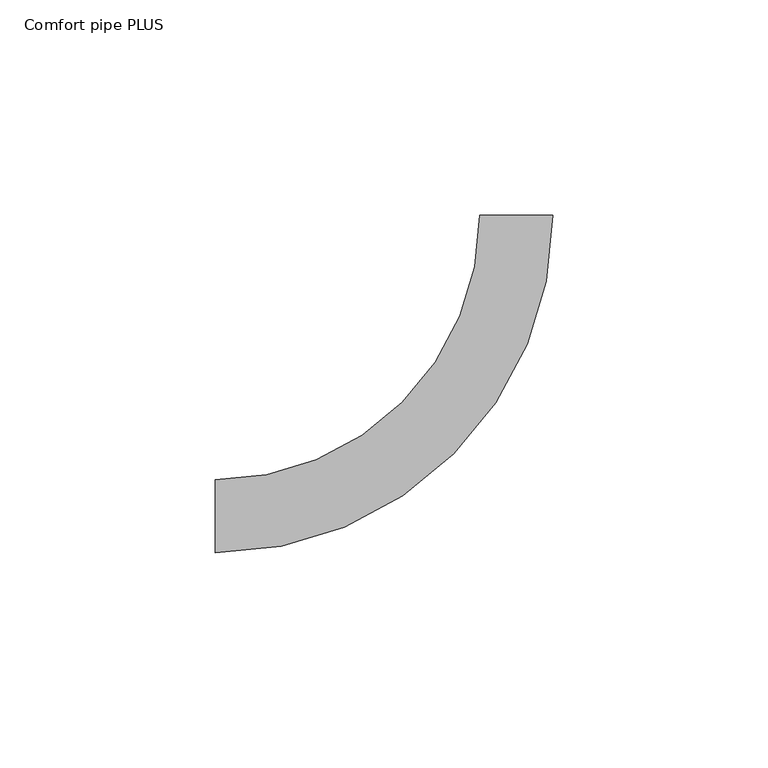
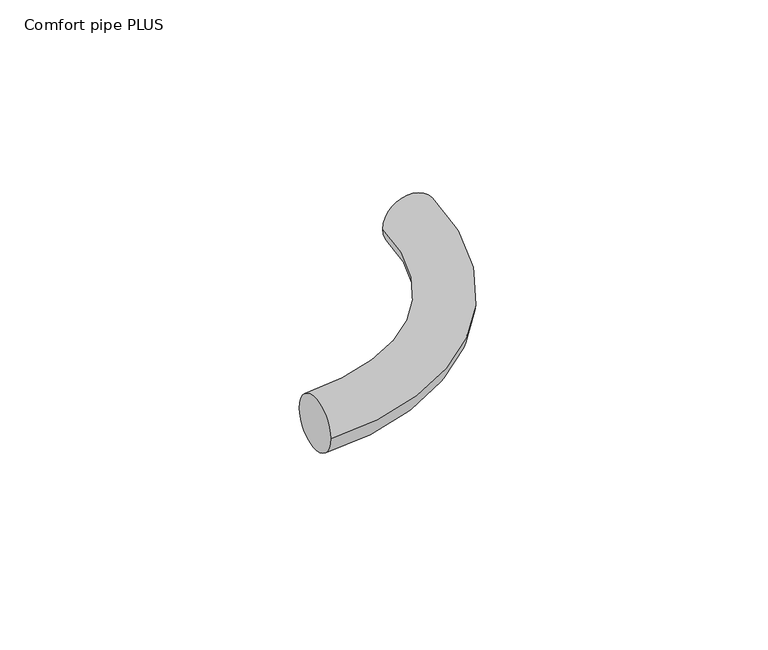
"""IFC4 building model written with IfcOpenShell, lengths in millimetres: pipe fitting geometry, 400_5-_Uponor_curved_Elbow : Comfort pipe PLUS."""

from ifc_helpers import new_model, si_unit, point, frame, origin, place, context, project, spatial, circle_curve, ellipse_curve, trimmed, source, transform, mapped, element, save
from ifc_brep_helpers import plane_surface, revolved_surface, advanced_brep


def comfort_pipe_plus_d9ac523e(model_context):
    return source(origin(), model_context, "Body", "AdvancedBrep", [
        advanced_brep(
        [(-70.0, -8.5, 0.0), (-70.0, 8.5, 0.0), (8.5, 70.0, 0.0), (-8.5, 70.0, 0.0)],
        [
            (0, 1, circle_curve(frame((-70.0, 0.0, 0.0), z_axis=(-1.0, 0.0, 0.0), x_axis=(0.0, 1.0, 0.0)), 8.5)),
            (1, 0, circle_curve(frame((-70.0, 0.0, 0.0), z_axis=(-1.0, 0.0, 0.0), x_axis=(0.0, 1.0, 0.0)), 8.5)),
            (2, 3, circle_curve(frame((0.0, 70.0, 0.0), z_axis=(0.0, 1.0, 0.0), x_axis=(-1.0, 0.0, 0.0)), 8.5)),
            (3, 2, circle_curve(frame((0.0, 70.0, 0.0), z_axis=(0.0, 1.0, 0.0), x_axis=(-1.0, 0.0, 0.0)), 8.5)),
            (3, 1, circle_curve(frame((-70.0, 70.0, 0.0), z_axis=(0.0, 0.0, -1.0), x_axis=(0.0, -1.0, 0.0)), 61.5)),
            (0, 2, circle_curve(frame((-70.0, 70.0, 0.0), z_axis=(0.0, 0.0, 1.0), x_axis=(0.0, -1.0, 0.0)), 78.5)),
        ],
        [
            plane_surface(frame((-70.0, 0.0, 0.0), z_axis=(-1.0, 0.0, 0.0), x_axis=(0.0, 0.0, 1.0))),
            plane_surface(frame((0.0, 70.0, 0.0), z_axis=(0.0, 1.0, 0.0), x_axis=(0.0, 0.0, 1.0))),
            revolved_surface(trimmed(ellipse_curve(frame((-70.0, 0.0, 0.0), z_axis=(-1.0, 0.0, 0.0), x_axis=(0.0, 1.0, 0.0)), 8.5, 8.5), [point((-70.0, -8.5, 0.0))], [point((-70.0, 8.5, 0.0))], True, "CARTESIAN"), (-70.0, 70.0, 0.0), (0.0, 0.0, 1.0)),
            revolved_surface(trimmed(ellipse_curve(frame((-70.0, 0.0, 0.0), z_axis=(-1.0, 0.0, 0.0), x_axis=(0.0, 1.0, 0.0)), 8.5, 8.5), [point((-70.0, 8.5, 0.0))], [point((-70.0, -8.5, 0.0))], True, "CARTESIAN"), (-70.0, 70.0, 0.0), (0.0, 0.0, 1.0)),
        ],
        [
            (0, [[1, 2]]),
            (1, [[3, 4]]),
            (2, [[5, -1, 6, -4]]),
            (3, [[-6, -2, -5, -3]]),
        ],
    ),
    ])


if __name__ == "__main__":
    model = new_model("IFC4")
    model_context = context("Model", 3, world=origin())
    ifc_project = project(units=[si_unit("LENGTHUNIT", "METRE", prefix="MILLI")], contexts=[model_context])
    site = spatial("IfcSite", under=ifc_project)
    building = spatial("IfcBuilding", under=site)
    placement = place(None, origin())
    comfort_pipe_plus_shape = comfort_pipe_plus_d9ac523e(model_context)
    element("IfcPipeFitting", 1, ObjectType="400_5-_Uponor_curved_Elbow : Comfort pipe PLUS", at=placement, inside=building, context=model_context, shape_type="MappedRepresentation", body=[
        mapped(comfort_pipe_plus_shape, transform((0.0, 0.0, 0.0), x_axis=(1.0, 0.0, 0.0), y_axis=(0.0, 1.0, 0.0), z_axis=(0.0, 0.0, 1.0))),
    ])
    save(model, "model.ifc")
